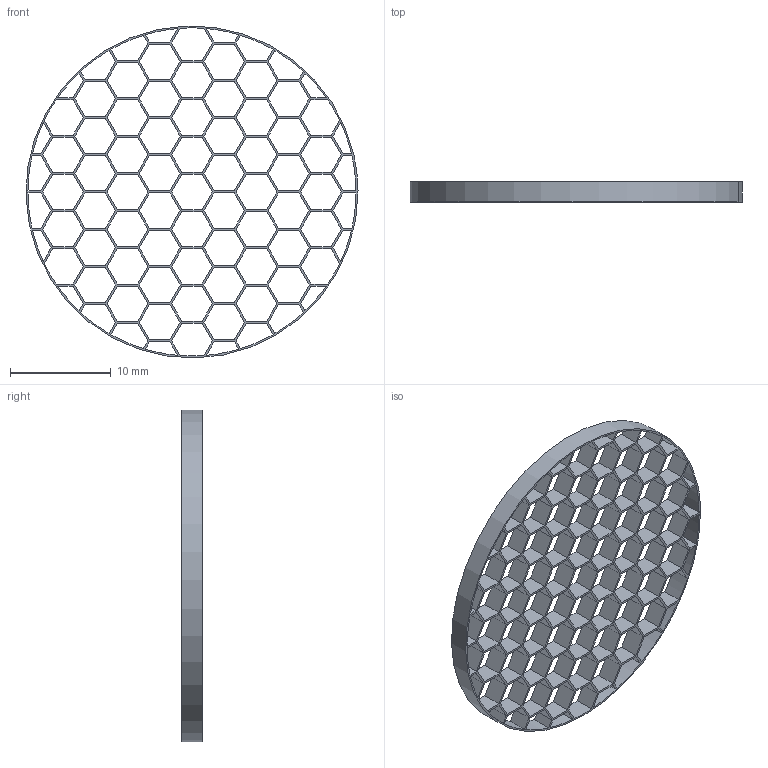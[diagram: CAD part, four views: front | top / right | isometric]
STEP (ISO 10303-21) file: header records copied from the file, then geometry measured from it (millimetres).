
FILE_DESCRIPTION((''),'2;1');
FILE_NAME('KC-0006-0227','2025-08-02T08:28:41',('YF-06'),(''),'CREO PARAMETRIC BY PTC INC, 2022073','CREO PARAMETRIC BY PTC INC, 2022073','');
FILE_SCHEMA(('CONFIG_CONTROL_DESIGN','SHAPE_APPEARANCE_LAYERS_GROUPS'));
Length unit declared in the file: millimetre
Products named in the file (1): KC-0006-0227
Bounding box: 32.99 x 2 x 32.99 mm (x, y, z)
Volume: 216.5 mm3; surface area: 2317 mm2
Topology: 1 solids, 1 shells, 478 faces, 1428 edges, 952 vertices
Faces by surface type: plane 446, cylinder 32
Entity records: 16231 total; most frequent: CARTESIAN_POINT 2858, ORIENTED_EDGE 2856, DIRECTION 2448, EDGE_CURVE 1428, VECTOR 1364, LINE 1364, VERTEX_POINT 952, EDGE_LOOP 648
